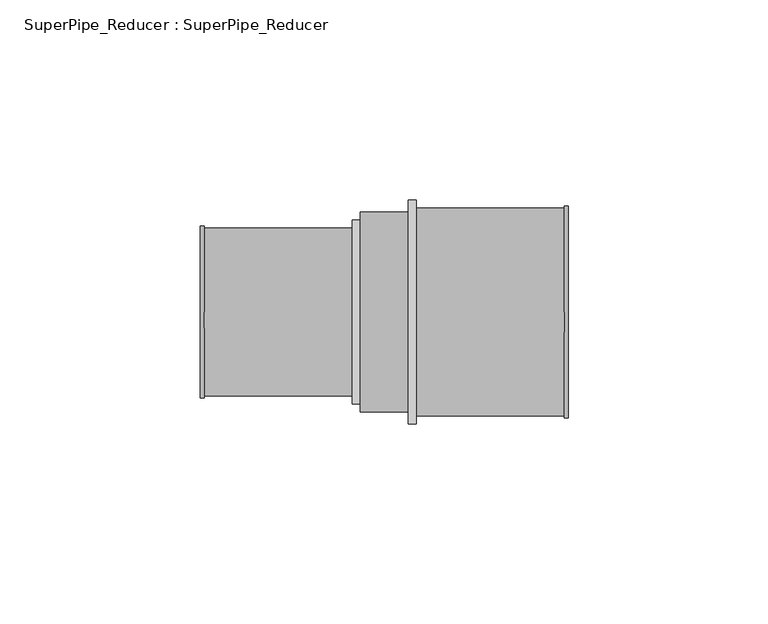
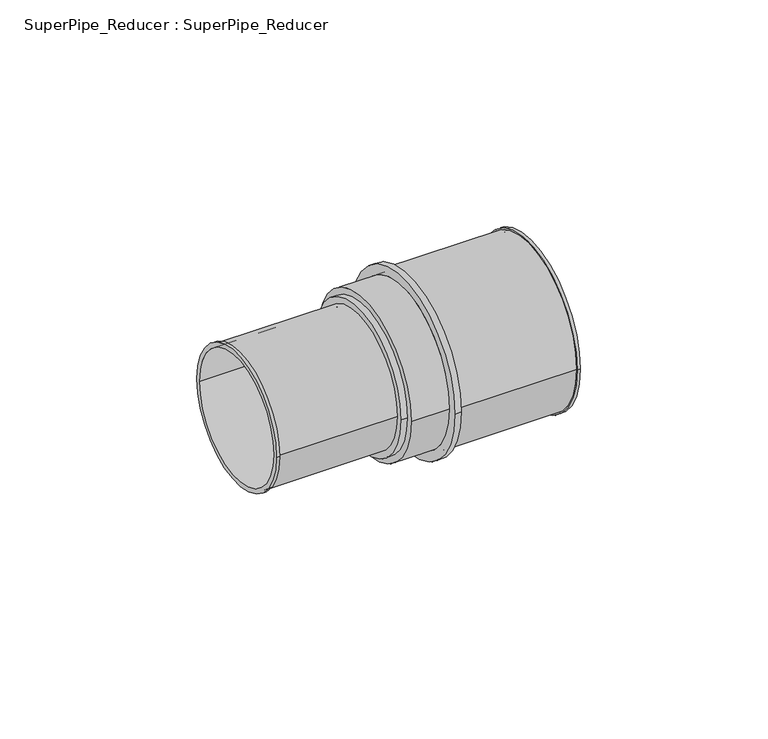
"""IFC4 building model written with IfcOpenShell, lengths in millimetres: pipe fitting geometry, SuperPipe_Reducer : SuperPipe_Reducer."""

from ifc_helpers import new_model, si_unit, point, frame, origin, origin_2d, place, context, project, spatial, polyline, circle_curve, trimmed, segment, composite_curve, outline, extrude, source, transform, mapped, element, save
from ifc_brep_helpers import plane_surface, cylinder_surface, revolved_surface, advanced_brep


def superpipe_reducer_superpipe_reducer_248c0d74(model_context):
    return source(origin(), model_context, "Body", "SolidModel", [
        advanced_brep(
        [(-40.0, -21.5, 0.0), (-40.0, 21.5, 0.0), (-40.0, -20.0, 0.0), (-40.0, 20.0, 0.0), (-2.0, -21.0, 0.0), (-2.0, 21.0, 0.0), (-2.0, -20.0, 0.0), (-2.0, 20.0, 0.0), (-39.0, -20.0, 0.0), (-39.0, 20.0, 0.0), (-39.0, 21.0, 0.0), (-39.0, -21.0, 0.0), (-39.0, -21.5, 0.0), (-39.0, 21.5, 0.0)],
        [
            (0, 1, circle_curve(frame((-40.0, 0.0, 0.0), z_axis=(-1.0, 0.0, 0.0), x_axis=(0.0, 1.0, 0.0)), 21.5)),
            (1, 0, circle_curve(frame((-40.0, 0.0, 0.0), z_axis=(-1.0, 0.0, 0.0), x_axis=(0.0, 1.0, 0.0)), 21.5)),
            (2, 3, circle_curve(frame((-40.0, 0.0, 0.0), z_axis=(1.0, 0.0, 0.0), x_axis=(0.0, 1.0, 0.0)), 20.0)),
            (3, 2, circle_curve(frame((-40.0, 0.0, 0.0), z_axis=(1.0, 0.0, 0.0), x_axis=(0.0, 1.0, 0.0)), 20.0)),
            (4, 5, circle_curve(frame((-2.0, 0.0, 0.0), z_axis=(1.0, 0.0, 0.0), x_axis=(0.0, 1.0, 0.0)), 21.0)),
            (5, 4, circle_curve(frame((-2.0, 0.0, 0.0), z_axis=(1.0, 0.0, 0.0), x_axis=(0.0, 1.0, 0.0)), 21.0)),
            (6, 7, circle_curve(frame((-2.0, 0.0, 0.0), z_axis=(-1.0, 0.0, 0.0), x_axis=(0.0, 1.0, 0.0)), 20.0)),
            (7, 6, circle_curve(frame((-2.0, 0.0, 0.0), z_axis=(-1.0, 0.0, 0.0), x_axis=(0.0, 1.0, 0.0)), 20.0)),
            (2, 8),
            (8, 6),
            (7, 9),
            (9, 3),
            (5, 10),
            (10, 11, circle_curve(frame((-39.0, 0.0, 0.0), z_axis=(1.0, 0.0, 0.0), x_axis=(0.0, 1.0, 0.0)), 21.0)),
            (11, 4),
            (11, 10, circle_curve(frame((-39.0, 0.0, 0.0), z_axis=(1.0, 0.0, 0.0), x_axis=(0.0, 1.0, 0.0)), 21.0)),
            (12, 13, circle_curve(frame((-39.0, 0.0, 0.0), z_axis=(1.0, 0.0, 0.0), x_axis=(0.0, 1.0, 0.0)), 21.5)),
            (13, 12, circle_curve(frame((-39.0, 0.0, 0.0), z_axis=(1.0, 0.0, 0.0), x_axis=(0.0, 1.0, 0.0)), 21.5)),
            (1, 13),
            (12, 0),
        ],
        [
            plane_surface(frame((-40.0, 0.0, 0.0), z_axis=(-1.0, 0.0, 0.0), x_axis=(0.0, 0.0, 1.0))),
            plane_surface(frame((-2.0, 0.0, 0.0), z_axis=(1.0, 0.0, 0.0), x_axis=(0.0, 0.0, 1.0))),
            revolved_surface(polyline([(-2.0, 20.0, 0.0), (-40.0, 20.0, 0.0)]), (-40.0, 0.0, 0.0), (1.0, 0.0, 0.0)),
            cylinder_surface(frame((-40.0, 0.0, 0.0), z_axis=(-1.0, 0.0, 0.0), x_axis=(0.0, 1.0, 0.0)), 21.0),
            plane_surface(frame((-39.0, 0.0, 0.0), z_axis=(1.0, 0.0, 0.0), x_axis=(0.0, 0.0, 1.0))),
            cylinder_surface(frame((-40.0, 0.0, 0.0), z_axis=(-1.0, 0.0, 0.0), x_axis=(0.0, 1.0, 0.0)), 21.5),
        ],
        [
            (0, [[1, 2], [3, 4]]),
            (1, [[5, 6], [7, 8]]),
            (2, [[-3, 9, 10, -8, 11, 12]]),
            (2, [[-4, -12, -11, -7, -10, -9]]),
            (3, [[-6, 13, 14, 15]]),
            (3, [[-5, -15, 16, -13]]),
            (4, [[17, 18], [-14, -16]]),
            (5, [[-2, 19, -17, 20]]),
            (5, [[-1, -20, -18, -19]]),
        ],
    ),
        extrude(outline(composite_curve([segment(trimmed(circle_curve(origin_2d(), 23.0), [point((-23.0, 0.0))], [point((23.0, 0.0))], False, "CARTESIAN"), True, "CONTINUOUS"), segment(trimmed(circle_curve(origin_2d(), 23.0), [point((23.0, 0.0))], [point((-23.0, 0.0))], False, "CARTESIAN"), True, "CONTINUOUS")], self_intersect=False), holes=[composite_curve([segment(trimmed(circle_curve(origin_2d(), 20.0), [point((20.0, 0.0))], [point((-20.0, 0.0))], True, "CARTESIAN"), True, "CONTINUOUS"), segment(trimmed(circle_curve(origin_2d(), 20.0), [point((-20.0, 0.0))], [point((20.0, 0.0))], True, "CARTESIAN"), True, "CONTINUOUS")], self_intersect=False)]), frame((-2.0, 0.0, 0.0), z_axis=(1.0, 0.0, 0.0), x_axis=(0.0, 1.0, 0.0)), (0.0, 0.0, 1.0), 2.0),
        extrude(outline(composite_curve([segment(trimmed(circle_curve(origin_2d(), 28.0), [point((-28.0, 0.0))], [point((28.0, 0.0))], False, "CARTESIAN"), True, "CONTINUOUS"), segment(trimmed(circle_curve(origin_2d(), 28.0), [point((28.0, 0.0))], [point((-28.0, 0.0))], False, "CARTESIAN"), True, "CONTINUOUS")], self_intersect=False), holes=[composite_curve([segment(trimmed(circle_curve(origin_2d(), 25.0), [point((25.0, 0.0))], [point((-25.0, 0.0))], True, "CARTESIAN"), True, "CONTINUOUS"), segment(trimmed(circle_curve(origin_2d(), 25.0), [point((-25.0, 0.0))], [point((25.0, 0.0))], True, "CARTESIAN"), True, "CONTINUOUS")], self_intersect=False)]), frame((12.0, 0.0, 0.0), z_axis=(1.0, 0.0, 0.0), x_axis=(0.0, 1.0, 0.0)), (0.0, 0.0, 1.0), 2.0),
        advanced_brep(
        [(14.0, -26.0, 0.0), (14.0, 26.0, 0.0), (14.0, -25.0, 0.0), (14.0, 25.0, 0.0), (52.0, -26.5, 0.0), (52.0, 26.5, 0.0), (52.0, -25.0, 0.0), (52.0, 25.0, 0.0), (51.0, -26.0, 0.0), (51.0, 26.0, 0.0), (51.0, -25.0, 0.0), (51.0, 25.0, 0.0), (51.0, -26.5, 0.0), (51.0, 26.5, 0.0)],
        [
            (0, 1, circle_curve(frame((14.0, 0.0, 0.0), z_axis=(-1.0, 0.0, 0.0), x_axis=(0.0, 1.0, 0.0)), 26.0)),
            (1, 0, circle_curve(frame((14.0, 0.0, 0.0), z_axis=(-1.0, 0.0, 0.0), x_axis=(0.0, 1.0, 0.0)), 26.0)),
            (2, 3, circle_curve(frame((14.0, 0.0, 0.0), z_axis=(1.0, 0.0, 0.0), x_axis=(0.0, 1.0, 0.0)), 25.0)),
            (3, 2, circle_curve(frame((14.0, 0.0, 0.0), z_axis=(1.0, 0.0, 0.0), x_axis=(0.0, 1.0, 0.0)), 25.0)),
            (4, 5, circle_curve(frame((52.0, 0.0, 0.0), z_axis=(1.0, 0.0, 0.0), x_axis=(0.0, 1.0, 0.0)), 26.5)),
            (5, 4, circle_curve(frame((52.0, 0.0, 0.0), z_axis=(1.0, 0.0, 0.0), x_axis=(0.0, 1.0, 0.0)), 26.5)),
            (6, 7, circle_curve(frame((52.0, 0.0, 0.0), z_axis=(-1.0, 0.0, 0.0), x_axis=(0.0, 1.0, 0.0)), 25.0)),
            (7, 6, circle_curve(frame((52.0, 0.0, 0.0), z_axis=(-1.0, 0.0, 0.0), x_axis=(0.0, 1.0, 0.0)), 25.0)),
            (0, 8),
            (8, 9, circle_curve(frame((51.0, 0.0, 0.0), z_axis=(-1.0, 0.0, 0.0), x_axis=(0.0, 1.0, 0.0)), 26.0)),
            (9, 1),
            (9, 8, circle_curve(frame((51.0, 0.0, 0.0), z_axis=(-1.0, 0.0, 0.0), x_axis=(0.0, 1.0, 0.0)), 26.0)),
            (2, 10),
            (10, 6),
            (7, 11),
            (11, 3),
            (12, 13, circle_curve(frame((51.0, 0.0, 0.0), z_axis=(-1.0, 0.0, 0.0), x_axis=(0.0, 1.0, 0.0)), 26.5)),
            (13, 12, circle_curve(frame((51.0, 0.0, 0.0), z_axis=(-1.0, 0.0, 0.0), x_axis=(0.0, 1.0, 0.0)), 26.5)),
            (13, 5),
            (4, 12),
        ],
        [
            plane_surface(frame((14.0, 0.0, 0.0), z_axis=(-1.0, 0.0, 0.0), x_axis=(0.0, 0.0, 1.0))),
            plane_surface(frame((52.0, 0.0, 0.0), z_axis=(1.0, 0.0, 0.0), x_axis=(0.0, 0.0, 1.0))),
            cylinder_surface(frame((14.0, 0.0, 0.0), z_axis=(-1.0, 0.0, 0.0), x_axis=(0.0, 1.0, 0.0)), 26.0),
            revolved_surface(polyline([(52.0, 25.0, 0.0), (14.0, 25.0, 0.0)]), (14.0, 0.0, 0.0), (1.0, 0.0, 0.0)),
            plane_surface(frame((51.0, 0.0, 0.0), z_axis=(-1.0, 0.0, 0.0), x_axis=(0.0, 0.0, 1.0))),
            cylinder_surface(frame((51.0, 0.0, 0.0), z_axis=(-1.0, 0.0, 0.0), x_axis=(0.0, 1.0, 0.0)), 26.5),
        ],
        [
            (0, [[1, 2], [3, 4]]),
            (1, [[5, 6], [7, 8]]),
            (2, [[-1, 9, 10, 11]]),
            (2, [[-2, -11, 12, -9]]),
            (3, [[-3, 13, 14, -8, 15, 16]]),
            (3, [[-4, -16, -15, -7, -14, -13]]),
            (4, [[17, 18], [-10, -12]]),
            (5, [[-18, 19, -5, 20]]),
            (5, [[-17, -20, -6, -19]]),
        ],
    ),
        extrude(outline(composite_curve([segment(trimmed(circle_curve(origin_2d(), 25.0), [point((-25.0, 0.0))], [point((25.0, 0.0))], False, "CARTESIAN"), True, "CONTINUOUS"), segment(trimmed(circle_curve(origin_2d(), 25.0), [point((25.0, 0.0))], [point((-25.0, 0.0))], False, "CARTESIAN"), True, "CONTINUOUS")], self_intersect=False)), frame((0.0, 0.0, 0.0), z_axis=(1.0, 0.0, 0.0), x_axis=(0.0, 1.0, 0.0)), (0.0, 0.0, 1.0), 12.0),
    ])


if __name__ == "__main__":
    model = new_model("IFC4")
    model_context = context("Model", 3, world=origin())
    ifc_project = project(units=[si_unit("LENGTHUNIT", "METRE", prefix="MILLI")], contexts=[model_context])
    site = spatial("IfcSite", under=ifc_project)
    building = spatial("IfcBuilding", under=site)
    placement = place(None, origin())
    superpipe_reducer_superpipe_reducer_shape = superpipe_reducer_superpipe_reducer_248c0d74(model_context)
    element("IfcPipeFitting", 1, ObjectType="SuperPipe_Reducer : SuperPipe_Reducer", at=placement, inside=building, context=model_context, shape_type="MappedRepresentation", body=[
        mapped(superpipe_reducer_superpipe_reducer_shape, transform((0.0, 0.0, 0.0), x_axis=(1.0, 0.0, 0.0), y_axis=(0.0, 1.0, 0.0), z_axis=(0.0, 0.0, 1.0))),
    ])
    save(model, "model.ifc")
